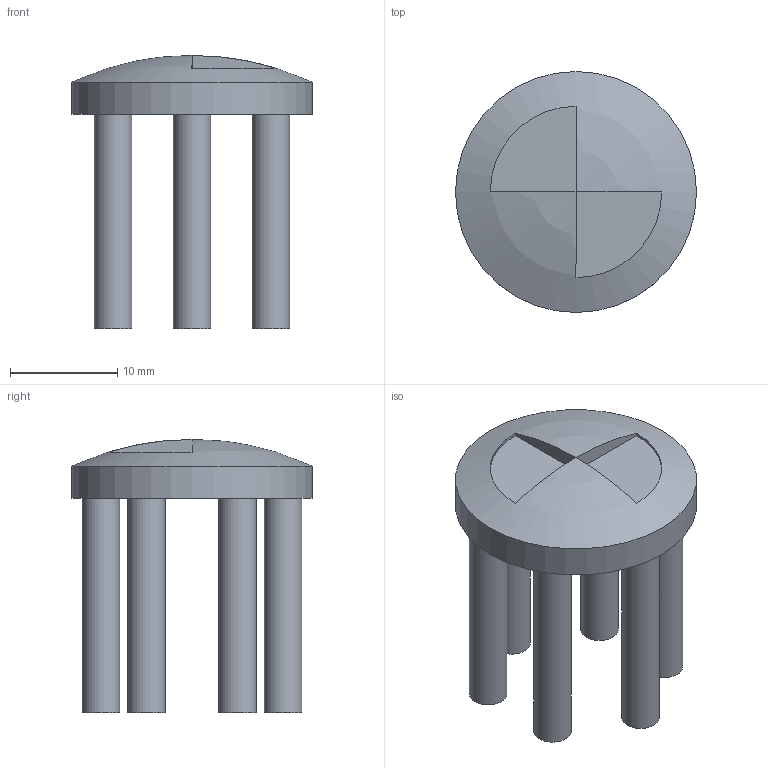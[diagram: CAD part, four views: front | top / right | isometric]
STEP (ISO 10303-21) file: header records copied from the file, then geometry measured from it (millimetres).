
FILE_DESCRIPTION(('STEP AP242'), '1');
FILE_NAME('婰膲僗闉', '', ('UNSPECIFIED'), ('UNSPECIFIED'), 'C3D Converter', 'C3D Toolkit', '');
FILE_SCHEMA(('AP242_MANAGED_MODEL_BASED_3D_ENGINEERING_MIM_LF { 1 0 10303 442 1 1 4 }'));
Length unit declared in the file: millimetre
Bounding box: 22.5 x 22.5 x 25.5 mm (x, y, z)
Volume: 2763.3 mm3; surface area: 3180.9 mm2
Topology: 2 solids, 2 shells, 25 faces, 43 edges, 25 vertices
Faces by surface type: plane 15, cylinder 9, sphere 1
Full cylindrical faces by diameter (mm): 3.5 x6, 22.5 x1
Entity records: 590 total; most frequent: DIRECTION 108, CARTESIAN_POINT 84, ORIENTED_EDGE 66, AXIS2_PLACEMENT_3D 49, EDGE_LOOP 39, EDGE_CURVE 33, ADVANCED_FACE 25, VERTEX_POINT 25
